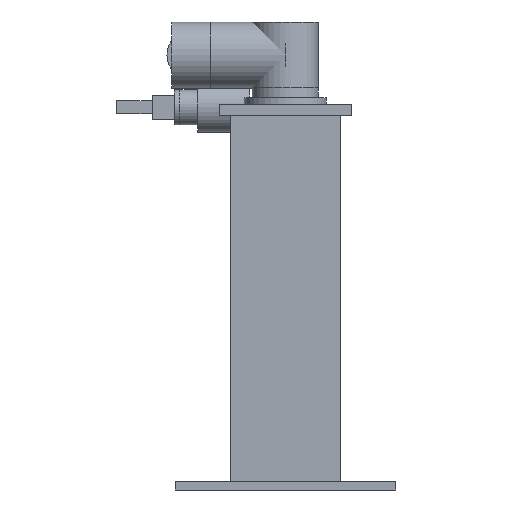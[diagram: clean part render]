
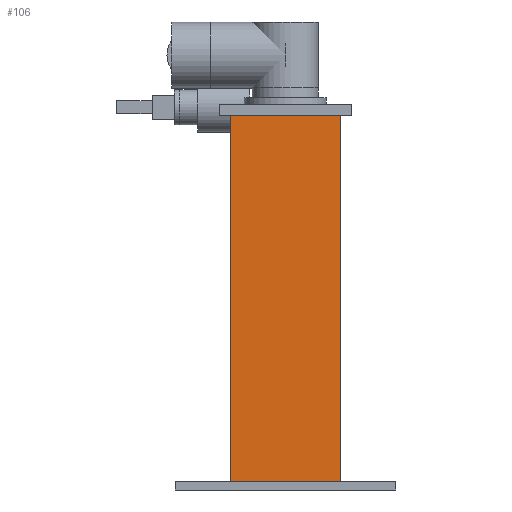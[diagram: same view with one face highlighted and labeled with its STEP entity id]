
A CAD part, left-side view. The second image highlights one B-rep face of the part: STEP entity #106.
In plain terms, the highlighted planar face has unit normal (-1, 0, 0).
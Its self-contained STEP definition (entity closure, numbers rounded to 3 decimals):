
#106 = ADVANCED_FACE('',(#107),#121,.F.);
#107 = FACE_BOUND('',#108,.F.);
#108 = EDGE_LOOP('',(#109,#144,#172,#200));
#109 = ORIENTED_EDGE('',*,*,#110,.F.);
#110 = EDGE_CURVE('',#111,#113,#115,.T.);
#111 = VERTEX_POINT('',#112);
#112 = CARTESIAN_POINT('',(-100.,-100.,0.));
#113 = VERTEX_POINT('',#114);
#114 = CARTESIAN_POINT('',(-100.,-100.,680.));
#115 = SURFACE_CURVE('',#116,(#120,#132),.PCURVE_S1.);
#116 = LINE('',#117,#118);
#117 = CARTESIAN_POINT('',(-100.,-100.,0.));
#118 = VECTOR('',#119,1.);
#119 = DIRECTION('',(0.,0.,1.));
#120 = PCURVE('',#121,#126);
#121 = PLANE('',#122);
#122 = AXIS2_PLACEMENT_3D('',#123,#124,#125);
#123 = CARTESIAN_POINT('',(-100.,-100.,0.));
#124 = DIRECTION('',(1.,0.,0.));
#125 = DIRECTION('',(0.,0.,1.));
#126 = DEFINITIONAL_REPRESENTATION('',(#127),#131);
#127 = LINE('',#128,#129);
#128 = CARTESIAN_POINT('',(0.,0.));
#129 = VECTOR('',#130,1.);
#130 = DIRECTION('',(1.,0.));
#131 = ( GEOMETRIC_REPRESENTATION_CONTEXT(2) 
PARAMETRIC_REPRESENTATION_CONTEXT() REPRESENTATION_CONTEXT('2D SPACE',''
  ) );
#132 = PCURVE('',#133,#138);
#133 = PLANE('',#134);
#134 = AXIS2_PLACEMENT_3D('',#135,#136,#137);
#135 = CARTESIAN_POINT('',(-100.,-100.,0.));
#136 = DIRECTION('',(0.,1.,0.));
#137 = DIRECTION('',(0.,0.,1.));
#138 = DEFINITIONAL_REPRESENTATION('',(#139),#143);
#139 = LINE('',#140,#141);
#140 = CARTESIAN_POINT('',(0.,0.));
#141 = VECTOR('',#142,1.);
#142 = DIRECTION('',(1.,0.));
#143 = ( GEOMETRIC_REPRESENTATION_CONTEXT(2) 
PARAMETRIC_REPRESENTATION_CONTEXT() REPRESENTATION_CONTEXT('2D SPACE',''
  ) );
#144 = ORIENTED_EDGE('',*,*,#145,.T.);
#145 = EDGE_CURVE('',#111,#146,#148,.T.);
#146 = VERTEX_POINT('',#147);
#147 = CARTESIAN_POINT('',(-100.,100.,0.));
#148 = SURFACE_CURVE('',#149,(#153,#160),.PCURVE_S1.);
#149 = LINE('',#150,#151);
#150 = CARTESIAN_POINT('',(-100.,-100.,0.));
#151 = VECTOR('',#152,1.);
#152 = DIRECTION('',(0.,1.,0.));
#153 = PCURVE('',#121,#154);
#154 = DEFINITIONAL_REPRESENTATION('',(#155),#159);
#155 = LINE('',#156,#157);
#156 = CARTESIAN_POINT('',(0.,0.));
#157 = VECTOR('',#158,1.);
#158 = DIRECTION('',(0.,-1.));
#159 = ( GEOMETRIC_REPRESENTATION_CONTEXT(2) 
PARAMETRIC_REPRESENTATION_CONTEXT() REPRESENTATION_CONTEXT('2D SPACE',''
  ) );
#160 = PCURVE('',#161,#166);
#161 = PLANE('',#162);
#162 = AXIS2_PLACEMENT_3D('',#163,#164,#165);
#163 = CARTESIAN_POINT('',(-100.,-100.,0.));
#164 = DIRECTION('',(0.,0.,1.));
#165 = DIRECTION('',(1.,0.,0.));
#166 = DEFINITIONAL_REPRESENTATION('',(#167),#171);
#167 = LINE('',#168,#169);
#168 = CARTESIAN_POINT('',(0.,0.));
#169 = VECTOR('',#170,1.);
#170 = DIRECTION('',(0.,1.));
#171 = ( GEOMETRIC_REPRESENTATION_CONTEXT(2) 
PARAMETRIC_REPRESENTATION_CONTEXT() REPRESENTATION_CONTEXT('2D SPACE',''
  ) );
#172 = ORIENTED_EDGE('',*,*,#173,.T.);
#173 = EDGE_CURVE('',#146,#174,#176,.T.);
#174 = VERTEX_POINT('',#175);
#175 = CARTESIAN_POINT('',(-100.,100.,680.));
#176 = SURFACE_CURVE('',#177,(#181,#188),.PCURVE_S1.);
#177 = LINE('',#178,#179);
#178 = CARTESIAN_POINT('',(-100.,100.,0.));
#179 = VECTOR('',#180,1.);
#180 = DIRECTION('',(0.,0.,1.));
#181 = PCURVE('',#121,#182);
#182 = DEFINITIONAL_REPRESENTATION('',(#183),#187);
#183 = LINE('',#184,#185);
#184 = CARTESIAN_POINT('',(0.,-200.));
#185 = VECTOR('',#186,1.);
#186 = DIRECTION('',(1.,0.));
#187 = ( GEOMETRIC_REPRESENTATION_CONTEXT(2) 
PARAMETRIC_REPRESENTATION_CONTEXT() REPRESENTATION_CONTEXT('2D SPACE',''
  ) );
#188 = PCURVE('',#189,#194);
#189 = PLANE('',#190);
#190 = AXIS2_PLACEMENT_3D('',#191,#192,#193);
#191 = CARTESIAN_POINT('',(-100.,100.,0.));
#192 = DIRECTION('',(0.,1.,0.));
#193 = DIRECTION('',(0.,0.,1.));
#194 = DEFINITIONAL_REPRESENTATION('',(#195),#199);
#195 = LINE('',#196,#197);
#196 = CARTESIAN_POINT('',(0.,0.));
#197 = VECTOR('',#198,1.);
#198 = DIRECTION('',(1.,0.));
#199 = ( GEOMETRIC_REPRESENTATION_CONTEXT(2) 
PARAMETRIC_REPRESENTATION_CONTEXT() REPRESENTATION_CONTEXT('2D SPACE',''
  ) );
#200 = ORIENTED_EDGE('',*,*,#201,.F.);
#201 = EDGE_CURVE('',#113,#174,#202,.T.);
#202 = SURFACE_CURVE('',#203,(#207,#214),.PCURVE_S1.);
#203 = LINE('',#204,#205);
#204 = CARTESIAN_POINT('',(-100.,-100.,680.));
#205 = VECTOR('',#206,1.);
#206 = DIRECTION('',(0.,1.,0.));
#207 = PCURVE('',#121,#208);
#208 = DEFINITIONAL_REPRESENTATION('',(#209),#213);
#209 = LINE('',#210,#211);
#210 = CARTESIAN_POINT('',(680.,0.));
#211 = VECTOR('',#212,1.);
#212 = DIRECTION('',(0.,-1.));
#213 = ( GEOMETRIC_REPRESENTATION_CONTEXT(2) 
PARAMETRIC_REPRESENTATION_CONTEXT() REPRESENTATION_CONTEXT('2D SPACE',''
  ) );
#214 = PCURVE('',#215,#220);
#215 = PLANE('',#216);
#216 = AXIS2_PLACEMENT_3D('',#217,#218,#219);
#217 = CARTESIAN_POINT('',(-100.,-100.,680.));
#218 = DIRECTION('',(0.,0.,1.));
#219 = DIRECTION('',(1.,0.,0.));
#220 = DEFINITIONAL_REPRESENTATION('',(#221),#225);
#221 = LINE('',#222,#223);
#222 = CARTESIAN_POINT('',(0.,0.));
#223 = VECTOR('',#224,1.);
#224 = DIRECTION('',(0.,1.));
#225 = ( GEOMETRIC_REPRESENTATION_CONTEXT(2) 
PARAMETRIC_REPRESENTATION_CONTEXT() REPRESENTATION_CONTEXT('2D SPACE',''
  ) );
